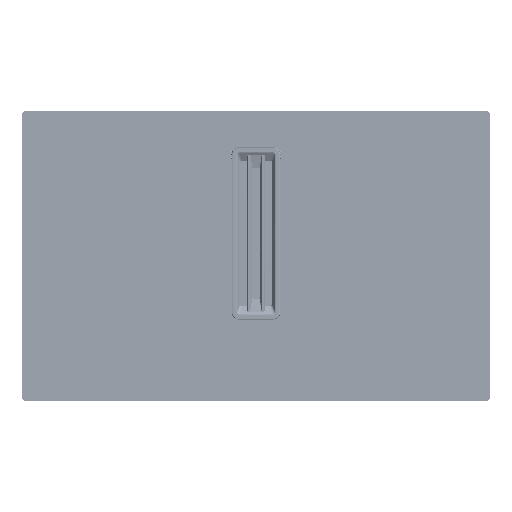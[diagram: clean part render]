
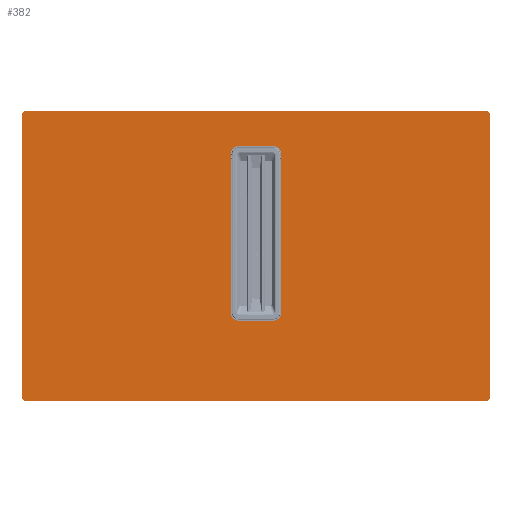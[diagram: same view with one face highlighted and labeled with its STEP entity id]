
A CAD part, top view. The second image highlights one B-rep face of the part: STEP entity #382.
In plain terms, the highlighted planar face has unit normal (0, 0, 1).
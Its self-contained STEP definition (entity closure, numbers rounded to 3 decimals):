
#62=CARTESIAN_POINT('Vertex',(-407.,257.5,4.)) ;
#76=CARTESIAN_POINT('Vertex',(-415.,249.5,4.)) ;
#79=CARTESIAN_POINT('Axis2P3D Location',(-407.,249.5,4.)) ;
#102=CARTESIAN_POINT('Vertex',(407.,257.5,4.)) ;
#110=CARTESIAN_POINT('Line Origine',(0.,257.5,4.)) ;
#253=CARTESIAN_POINT('Vertex',(-415.,-249.5,4.)) ;
#256=CARTESIAN_POINT('Line Origine',(-415.,0.,4.)) ;
#268=CARTESIAN_POINT('Axis2P3D Location',(0.,0.,4.)) ;
#273=CARTESIAN_POINT('Axis2P3D Location',(-407.,-249.5,4.)) ;
#277=CARTESIAN_POINT('Vertex',(-407.,-257.5,4.)) ;
#280=CARTESIAN_POINT('Line Origine',(0.,-257.5,4.)) ;
#284=CARTESIAN_POINT('Vertex',(407.,-257.5,4.)) ;
#287=CARTESIAN_POINT('Axis2P3D Location',(407.,-249.5,4.)) ;
#291=CARTESIAN_POINT('Vertex',(415.,-249.5,4.)) ;
#294=CARTESIAN_POINT('Line Origine',(415.,0.,4.)) ;
#298=CARTESIAN_POINT('Vertex',(415.,249.5,4.)) ;
#301=CARTESIAN_POINT('Axis2P3D Location',(407.,249.5,4.)) ;
#316=CARTESIAN_POINT('Line Origine',(0.,195.,4.)) ;
#320=CARTESIAN_POINT('Vertex',(30.,195.,4.)) ;
#322=CARTESIAN_POINT('Vertex',(-30.,195.,4.)) ;
#325=CARTESIAN_POINT('Axis2P3D Location',(30.,180.,4.)) ;
#329=CARTESIAN_POINT('Vertex',(45.,180.,4.)) ;
#332=CARTESIAN_POINT('Line Origine',(45.,40.,4.)) ;
#336=CARTESIAN_POINT('Vertex',(45.,-100.,4.)) ;
#339=CARTESIAN_POINT('Axis2P3D Location',(30.,-100.,4.)) ;
#343=CARTESIAN_POINT('Vertex',(30.,-115.,4.)) ;
#346=CARTESIAN_POINT('Line Origine',(0.,-115.,4.)) ;
#350=CARTESIAN_POINT('Vertex',(-30.,-115.,4.)) ;
#353=CARTESIAN_POINT('Axis2P3D Location',(-30.,-100.,4.)) ;
#357=CARTESIAN_POINT('Vertex',(-45.,-100.,4.)) ;
#360=CARTESIAN_POINT('Line Origine',(-45.,40.,4.)) ;
#364=CARTESIAN_POINT('Vertex',(-45.,180.,4.)) ;
#367=CARTESIAN_POINT('Axis2P3D Location',(-30.,180.,4.)) ;
#80=DIRECTION('Axis2P3D Direction',(0.,0.,1.)) ;
#111=DIRECTION('Vector Direction',(1.,0.,0.)) ;
#257=DIRECTION('Vector Direction',(0.,-1.,0.)) ;
#269=DIRECTION('Axis2P3D Direction',(0.,0.,1.)) ;
#270=DIRECTION('Axis2P3D XDirection',(1.,0.,0.)) ;
#274=DIRECTION('Axis2P3D Direction',(0.,0.,1.)) ;
#281=DIRECTION('Vector Direction',(-1.,0.,0.)) ;
#288=DIRECTION('Axis2P3D Direction',(0.,0.,1.)) ;
#295=DIRECTION('Vector Direction',(0.,1.,0.)) ;
#302=DIRECTION('Axis2P3D Direction',(0.,0.,1.)) ;
#317=DIRECTION('Vector Direction',(1.,0.,0.)) ;
#326=DIRECTION('Axis2P3D Direction',(0.,0.,1.)) ;
#333=DIRECTION('Vector Direction',(0.,1.,0.)) ;
#340=DIRECTION('Axis2P3D Direction',(0.,0.,1.)) ;
#347=DIRECTION('Vector Direction',(-1.,0.,0.)) ;
#354=DIRECTION('Axis2P3D Direction',(0.,0.,1.)) ;
#361=DIRECTION('Vector Direction',(0.,-1.,0.)) ;
#368=DIRECTION('Axis2P3D Direction',(0.,0.,1.)) ;
#81=AXIS2_PLACEMENT_3D('Circle Axis2P3D',#79,#80,$) ;
#271=AXIS2_PLACEMENT_3D('Plane Axis2P3D',#268,#269,#270) ;
#275=AXIS2_PLACEMENT_3D('Circle Axis2P3D',#273,#274,$) ;
#289=AXIS2_PLACEMENT_3D('Circle Axis2P3D',#287,#288,$) ;
#303=AXIS2_PLACEMENT_3D('Circle Axis2P3D',#301,#302,$) ;
#327=AXIS2_PLACEMENT_3D('Circle Axis2P3D',#325,#326,$) ;
#341=AXIS2_PLACEMENT_3D('Circle Axis2P3D',#339,#340,$) ;
#355=AXIS2_PLACEMENT_3D('Circle Axis2P3D',#353,#354,$) ;
#369=AXIS2_PLACEMENT_3D('Circle Axis2P3D',#367,#368,$) ;
#307=ORIENTED_EDGE('',*,*,#83,.T.) ;
#308=ORIENTED_EDGE('',*,*,#260,.T.) ;
#309=ORIENTED_EDGE('',*,*,#279,.T.) ;
#310=ORIENTED_EDGE('',*,*,#286,.T.) ;
#311=ORIENTED_EDGE('',*,*,#293,.T.) ;
#312=ORIENTED_EDGE('',*,*,#300,.T.) ;
#313=ORIENTED_EDGE('',*,*,#305,.T.) ;
#314=ORIENTED_EDGE('',*,*,#114,.T.) ;
#373=ORIENTED_EDGE('',*,*,#324,.F.) ;
#374=ORIENTED_EDGE('',*,*,#331,.F.) ;
#375=ORIENTED_EDGE('',*,*,#338,.F.) ;
#376=ORIENTED_EDGE('',*,*,#345,.F.) ;
#377=ORIENTED_EDGE('',*,*,#352,.F.) ;
#378=ORIENTED_EDGE('',*,*,#359,.F.) ;
#379=ORIENTED_EDGE('',*,*,#366,.F.) ;
#380=ORIENTED_EDGE('',*,*,#371,.F.) ;
#381=FACE_BOUND('',#372,.T.) ;
#112=VECTOR('Line Direction',#111,1.) ;
#258=VECTOR('Line Direction',#257,1.) ;
#282=VECTOR('Line Direction',#281,1.) ;
#296=VECTOR('Line Direction',#295,1.) ;
#318=VECTOR('Line Direction',#317,1.) ;
#334=VECTOR('Line Direction',#333,1.) ;
#348=VECTOR('Line Direction',#347,1.) ;
#362=VECTOR('Line Direction',#361,1.) ;
#382=ADVANCED_FACE('M0517995.1\\M0494311.1\\M0494311 glass ceramics plate',(#315,#381),#272,.T.) ;
#82=CIRCLE('generated circle',#81,8.) ;
#276=CIRCLE('generated circle',#275,8.) ;
#290=CIRCLE('generated circle',#289,8.) ;
#304=CIRCLE('generated circle',#303,8.) ;
#328=CIRCLE('generated circle',#327,15.) ;
#342=CIRCLE('generated circle',#341,15.) ;
#356=CIRCLE('generated circle',#355,15.) ;
#370=CIRCLE('generated circle',#369,15.) ;
#83=EDGE_CURVE('',#63,#77,#82,.T.) ;
#114=EDGE_CURVE('',#103,#63,#113,.F.) ;
#260=EDGE_CURVE('',#77,#254,#259,.T.) ;
#279=EDGE_CURVE('',#254,#278,#276,.T.) ;
#286=EDGE_CURVE('',#278,#285,#283,.F.) ;
#293=EDGE_CURVE('',#285,#292,#290,.T.) ;
#300=EDGE_CURVE('',#292,#299,#297,.T.) ;
#305=EDGE_CURVE('',#299,#103,#304,.T.) ;
#324=EDGE_CURVE('',#321,#323,#319,.F.) ;
#331=EDGE_CURVE('',#330,#321,#328,.T.) ;
#338=EDGE_CURVE('',#337,#330,#335,.T.) ;
#345=EDGE_CURVE('',#344,#337,#342,.T.) ;
#352=EDGE_CURVE('',#351,#344,#349,.F.) ;
#359=EDGE_CURVE('',#358,#351,#356,.T.) ;
#366=EDGE_CURVE('',#365,#358,#363,.T.) ;
#371=EDGE_CURVE('',#323,#365,#370,.T.) ;
#306=EDGE_LOOP('',(#307,#308,#309,#310,#311,#312,#313,#314)) ;
#372=EDGE_LOOP('',(#373,#374,#375,#376,#377,#378,#379,#380)) ;
#315=FACE_OUTER_BOUND('',#306,.T.) ;
#113=LINE('Line',#110,#112) ;
#259=LINE('Line',#256,#258) ;
#283=LINE('Line',#280,#282) ;
#297=LINE('Line',#294,#296) ;
#319=LINE('Line',#316,#318) ;
#335=LINE('Line',#332,#334) ;
#349=LINE('Line',#346,#348) ;
#363=LINE('Line',#360,#362) ;
#272=PLANE('',#271) ;
#63=VERTEX_POINT('',#62) ;
#77=VERTEX_POINT('',#76) ;
#103=VERTEX_POINT('',#102) ;
#254=VERTEX_POINT('',#253) ;
#278=VERTEX_POINT('',#277) ;
#285=VERTEX_POINT('',#284) ;
#292=VERTEX_POINT('',#291) ;
#299=VERTEX_POINT('',#298) ;
#321=VERTEX_POINT('',#320) ;
#323=VERTEX_POINT('',#322) ;
#330=VERTEX_POINT('',#329) ;
#337=VERTEX_POINT('',#336) ;
#344=VERTEX_POINT('',#343) ;
#351=VERTEX_POINT('',#350) ;
#358=VERTEX_POINT('',#357) ;
#365=VERTEX_POINT('',#364) ;
